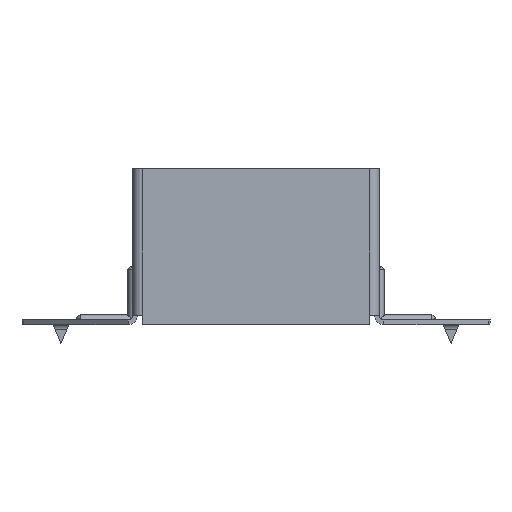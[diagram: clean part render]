
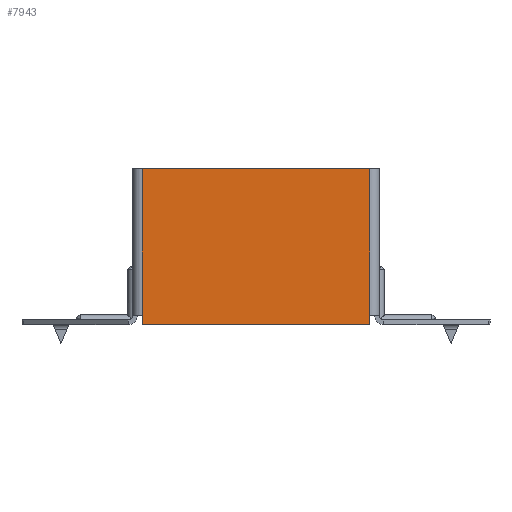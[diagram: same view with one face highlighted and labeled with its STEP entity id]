
A CAD part, front view. The second image highlights one B-rep face of the part: STEP entity #7943.
In plain terms, the highlighted planar face has unit normal (0, -1, 0).
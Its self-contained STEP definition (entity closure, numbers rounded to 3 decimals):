
#713 = LINE ( 'NONE', #6411, #2005 ) ;
#781 = VERTEX_POINT ( 'NONE', #10131 ) ;
#868 = LINE ( 'NONE', #10797, #2284 ) ;
#930 = DIRECTION ( 'NONE',  ( 0., 0., -1. ) ) ;
#934 = FACE_OUTER_BOUND ( 'NONE', #8807, .T. ) ;
#1001 = ORIENTED_EDGE ( 'NONE', *, *, #9544, .T. ) ;
#1273 = VECTOR ( 'NONE', #7730, 1000. ) ;
#1445 = ORIENTED_EDGE ( 'NONE', *, *, #10385, .F. ) ;
#1477 = CARTESIAN_POINT ( 'NONE',  ( -36.5, 0., -67. ) ) ;
#1515 = EDGE_CURVE ( 'NONE', #2104, #10387, #6779, .T. ) ;
#1841 = VECTOR ( 'NONE', #930, 1000. ) ;
#1996 = EDGE_CURVE ( 'NONE', #781, #2349, #868, .T. ) ;
#2005 = VECTOR ( 'NONE', #2243, 1000. ) ;
#2104 = VERTEX_POINT ( 'NONE', #1477 ) ;
#2243 = DIRECTION ( 'NONE',  ( -1., 0., 0. ) ) ;
#2284 = VECTOR ( 'NONE', #4680, 1000. ) ;
#2349 = VERTEX_POINT ( 'NONE', #7185 ) ;
#2992 = ORIENTED_EDGE ( 'NONE', *, *, #1996, .T. ) ;
#3274 = ORIENTED_EDGE ( 'NONE', *, *, #10476, .T. ) ;
#3604 = ORIENTED_EDGE ( 'NONE', *, *, #6867, .T. ) ;
#4680 = DIRECTION ( 'NONE',  ( 0., 0., 1. ) ) ;
#5128 = CARTESIAN_POINT ( 'NONE',  ( -36.5, 0., -20. ) ) ;
#5552 = PLANE ( 'NONE',  #8112 ) ;
#5584 = CARTESIAN_POINT ( 'NONE',  ( 0., 0., 0. ) ) ;
#5798 = LINE ( 'NONE', #6783, #11505 ) ;
#5827 = VECTOR ( 'NONE', #6512, 1000. ) ;
#5981 = LINE ( 'NONE', #11573, #5827 ) ;
#6029 = ORIENTED_EDGE ( 'NONE', *, *, #1515, .T. ) ;
#6090 = CARTESIAN_POINT ( 'NONE',  ( 36.5, 0., -20. ) ) ;
#6411 = CARTESIAN_POINT ( 'NONE',  ( -38., 0., -70. ) ) ;
#6512 = DIRECTION ( 'NONE',  ( -1., 0., 0. ) ) ;
#6628 = VERTEX_POINT ( 'NONE', #5128 ) ;
#6629 = DIRECTION ( 'NONE',  ( 0., 0., 1. ) ) ;
#6779 = LINE ( 'NONE', #7022, #1841 ) ;
#6783 = CARTESIAN_POINT ( 'NONE',  ( -36.5, 0., 0. ) ) ;
#6867 = EDGE_CURVE ( 'NONE', #2349, #12378, #11905, .T. ) ;
#7022 = CARTESIAN_POINT ( 'NONE',  ( -36.5, 0., 0. ) ) ;
#7185 = CARTESIAN_POINT ( 'NONE',  ( 36.5, 0., -67. ) ) ;
#7730 = DIRECTION ( 'NONE',  ( 0., 0., 1. ) ) ;
#7943 = ADVANCED_FACE ( 'NONE', ( #934 ), #5552, .F. ) ;
#8112 = AXIS2_PLACEMENT_3D ( 'NONE', #5584, #12781, #6629 ) ;
#8350 = CARTESIAN_POINT ( 'NONE',  ( -36.5, 0., -70. ) ) ;
#8807 = EDGE_LOOP ( 'NONE', ( #1001, #3274, #6029, #1445, #2992, #3604 ) ) ;
#8931 = DIRECTION ( 'NONE',  ( 0., 0., -1. ) ) ;
#9544 = EDGE_CURVE ( 'NONE', #12378, #6628, #5981, .T. ) ;
#10131 = CARTESIAN_POINT ( 'NONE',  ( 36.5, 0., -70. ) ) ;
#10385 = EDGE_CURVE ( 'NONE', #781, #10387, #713, .T. ) ;
#10387 = VERTEX_POINT ( 'NONE', #8350 ) ;
#10476 = EDGE_CURVE ( 'NONE', #6628, #2104, #5798, .T. ) ;
#10795 = CARTESIAN_POINT ( 'NONE',  ( 36.5, 0., -70. ) ) ;
#10797 = CARTESIAN_POINT ( 'NONE',  ( 36.5, 0., -70. ) ) ;
#11505 = VECTOR ( 'NONE', #8931, 1000. ) ;
#11573 = CARTESIAN_POINT ( 'NONE',  ( 0., 0., -20. ) ) ;
#11905 = LINE ( 'NONE', #10795, #1273 ) ;
#12378 = VERTEX_POINT ( 'NONE', #6090 ) ;
#12781 = DIRECTION ( 'NONE',  ( 0., 1., 0. ) ) ;
